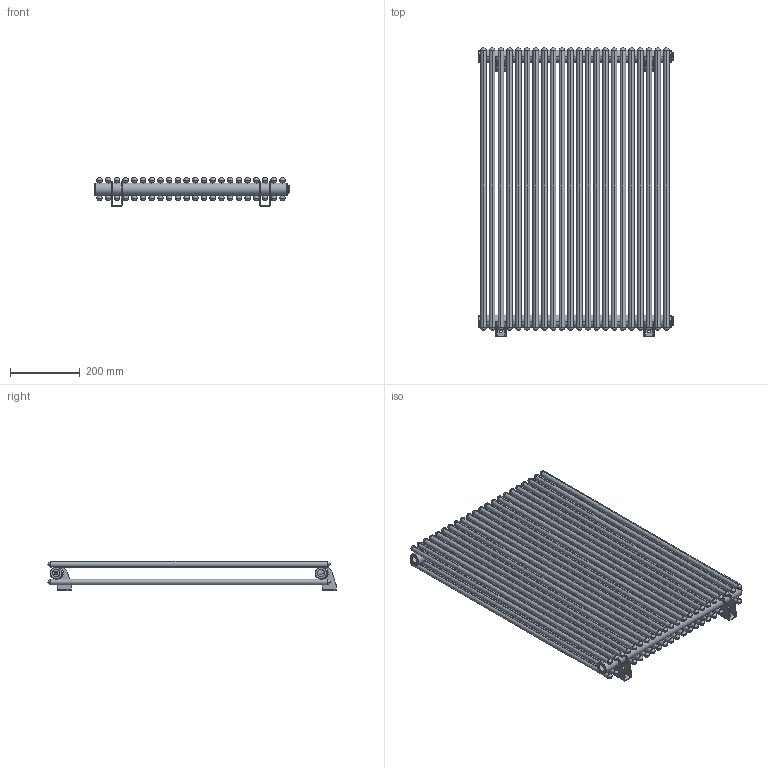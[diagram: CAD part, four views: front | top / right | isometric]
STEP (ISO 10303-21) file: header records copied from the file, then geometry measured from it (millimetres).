
FILE_DESCRIPTION (( 'STEP AP203' ), '1' );
FILE_NAME ('C22D810.STEP', '2026-03-06T10:44:47', ( '' ), ( '' ), 'SwSTEP 2.0', 'SolidWorks 2025', '' );
FILE_SCHEMA (( 'CONFIG_CONTROL_DESIGN' ));
Length unit declared in the file: millimetre
Products named in the file (6): STAFFA 2025 [Con configurazioni]_ZIGOLO - CANARINO S; tappo_sx.prt; COLLETTORE INT 25 [Con configurazioni]_553; tappo_sfiato.prt; C22D810; TRAVERSINO TONDO 16 [Con configurazioni]_810
Assembly tree (52 placements, depth 2):
  C22D810
    COLLETTORE INT 25 [Con configurazioni]_553  x2
    TRAVERSINO TONDO 16 [Con configurazioni]_810  x44
    tappo_sfiato.prt
    tappo_sx.prt
    STAFFA 2025 [Con configurazioni]_ZIGOLO - CANARINO S  x4
Bounding box: 559 x 827 x 83.5 mm (x, y, z)
Volume: 2639511.3 mm3; surface area: 3519337.2 mm2
Topology: 50 solids, 54 shells, 1153 faces, 3540 edges, 1973 vertices
Faces by surface type: cylinder 572, sphere 352, plane 154, bspline 49, torus 24, cone 2
Entity records: 21913 total; most frequent: CARTESIAN_POINT 13844, ORIENTED_EDGE 1532, DIRECTION 920, EDGE_CURVE 770, B_SPLINE_CURVE_WITH_KNOTS 499, VERTEX_POINT 465, AXIS2_PLACEMENT_3D 372, EDGE_LOOP 288
